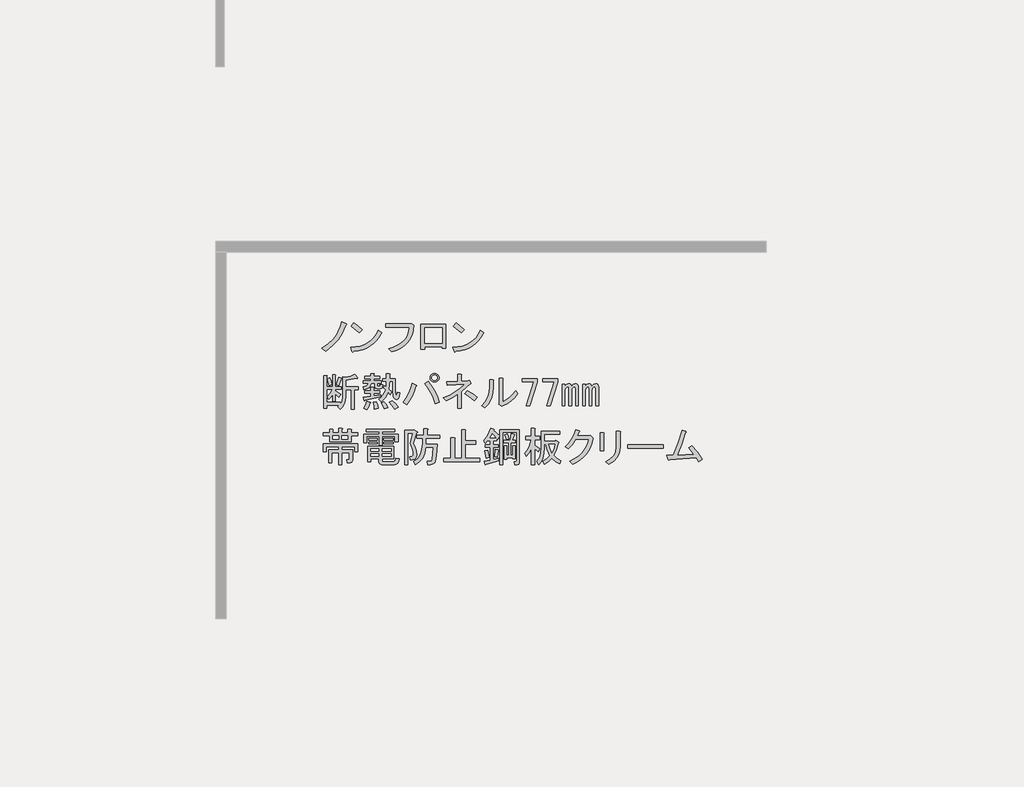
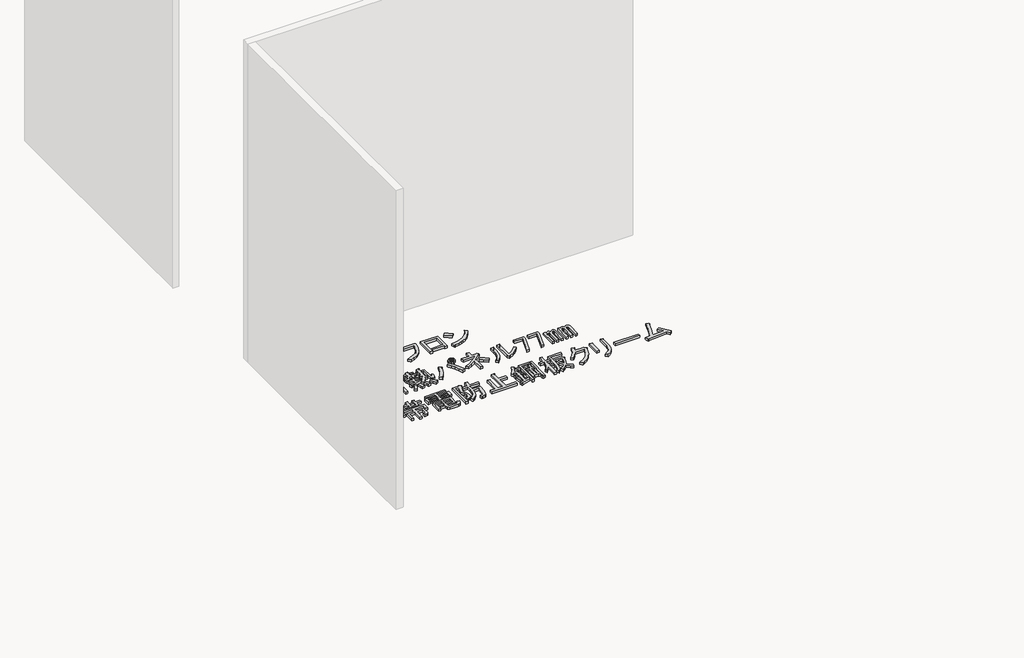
# One storey, part 22 of 117: 1 proxy.
"""IFC4 building model written with IfcOpenShell, lengths in millimetres."""

from ifc_helpers import new_model, si_unit, frame, origin, place, context, project, spatial, polyline, outline, extrude, element, save

model = new_model("IFC4")

# Units and contexts
model_context = context("Model", 3, world=origin())
ifc_project = project(units=[si_unit("LENGTHUNIT", "METRE", prefix="MILLI")], contexts=[model_context])

# Site, building, storey
site = spatial("IfcSite", under=ifc_project)
building = spatial("IfcBuilding", under=site)
storey = spatial("IfcBuildingStorey", under=building, Name="レベル 1", Elevation=500.0)

# Proxy
placement = place(None, origin())
element("IfcBuildingElementProxy", 1, Name="200㎜\u3000MS Pゴシック", ObjectType="200㎜\u3000MS Pゴシック", at=placement, inside=storey, context=model_context, shape_type="SweptSolid", body=[
    extrude(outline(polyline([(-15056.3293015, -607.0496882), (-15081.9047498, -666.8215225), (-15110.353844, -712.7998566), (-15152.0217093, -758.2034615), (-15201.1610538, -795.560858), (-15228.7480543, -773.7211493), (-15181.0455327, -743.2605029), (-15141.3892195, -704.7536481), (-15124.0036619, -680.8305462), (-15108.6296565, -652.7406577), (-15095.2672031, -620.4839827), (-15083.9163019, -584.0605212), (-15052.8809264, -597.8540214), (-15049.7199159, -602.4518548), (-15056.3293015, -607.0496882)])), frame((0.0, 0.0, 500.0), z_axis=(0.0, 0.0, 1.0), x_axis=(1.0, 0.0, 0.0)), (0.0, 0.0, 1.0), 25.0),
    extrude(outline(polyline([(-14956.6022948, -662.2236891), (-15015.2246708, -615.0958967), (-14995.6838788, -590.9572713), (-14968.3842429, -610.7854279), (-14934.7625862, -640.3839804), (-14956.6022948, -662.2236891)])), frame((0.0, 0.0, 500.0), z_axis=(0.0, 0.0, 1.0), x_axis=(1.0, 0.0, 0.0)), (0.0, 0.0, 1.0), 25.0),
    extrude(outline(polyline([(-14794.5286672, -662.2236891), (-14811.052131, -691.965924), (-14830.1618761, -717.9724192), (-14851.8579025, -740.2431748), (-14876.1402102, -758.7781907), (-14903.0087992, -773.577467), (-14932.4636694, -784.6410036), (-14964.504821, -791.9688006), (-14999.1322539, -795.560858), (-15004.8795456, -803.6070664), (-15010.6268374, -797.8597747), (-15019.8225042, -767.9738575), (-14983.9917321, -765.2977748), (-14951.2142088, -758.9937141), (-14921.4899342, -749.0616756), (-14894.8189084, -735.5016591), (-14871.2011313, -718.3136646), (-14850.636603, -697.4976923), (-14833.1253234, -673.053742), (-14818.6672926, -644.9818138), (-14794.5286672, -662.2236891)])), frame((0.0, 0.0, 500.0), z_axis=(0.0, 0.0, 1.0), x_axis=(1.0, 0.0, 0.0)), (0.0, 0.0, 1.0), 25.0),
    extrude(outline(polyline([(-14743.7685864, -777.1695243), (-14709.985287, -767.4889298), (-14680.4765359, -755.1142922), (-14655.242333, -740.0456116), (-14634.2826783, -722.282888), (-14617.597572, -701.8261214), (-14605.1870138, -678.6753118), (-14597.0510039, -652.8304591), (-14593.1895423, -624.2915635), (-14765.6082951, -624.2915635), (-14765.6082951, -599.0034798), (-14590.8906256, -599.0034798), (-14574.7982086, -595.5551047), (-14562.1541668, -607.0496882), (-14565.674383, -643.5449909), (-14573.9361149, -676.5919185), (-14586.9393625, -706.1904711), (-14604.6841258, -732.3406486), (-14627.1704048, -755.042451), (-14654.3981995, -774.2958784), (-14686.3675099, -790.1009308), (-14723.078336, -802.4576081), (-14743.7685864, -777.1695243)])), frame((0.0, 0.0, 500.0), z_axis=(0.0, 0.0, 1.0), x_axis=(1.0, 0.0, 0.0)), (0.0, 0.0, 1.0), 25.0),
    extrude(outline(polyline([(-14329.044013, -776.020066), (-14355.4815551, -776.020066), (-14355.4815551, -763.3760241), (-14483.0714321, -763.3760241), (-14483.0714321, -781.7673577), (-14509.5089742, -781.7673577), (-14509.5089742, -602.4518548), (-14329.044013, -602.4518548), (-14329.044013, -776.020066)]), holes=[polyline([(-14483.0714321, -627.7399386), (-14483.0714321, -738.0879404), (-14355.4815551, -738.0879404), (-14355.4815551, -627.7399386), (-14483.0714321, -627.7399386)])]), frame((0.0, 0.0, 500.0), z_axis=(0.0, 0.0, 1.0), x_axis=(1.0, 0.0, 0.0)), (0.0, 0.0, 1.0), 25.0),
    extrude(outline(polyline([(-14052.9900951, -662.2236891), (-14069.5135589, -691.965924), (-14088.623304, -717.9724192), (-14110.3193304, -740.2431748), (-14134.6016381, -758.7781907), (-14161.4702271, -773.577467), (-14190.9250974, -784.6410036), (-14222.9662489, -791.9688006), (-14257.5936818, -795.560858), (-14263.3409736, -803.6070664), (-14269.0882653, -797.8597747), (-14278.2839321, -767.9738575), (-14242.4531601, -765.2977748), (-14209.6756367, -758.9937141), (-14179.9513622, -749.0616756), (-14153.2803363, -735.5016591), (-14129.6625593, -718.3136646), (-14109.0980309, -697.4976923), (-14091.5867514, -673.053742), (-14077.1287205, -644.9818138), (-14052.9900951, -662.2236891)])), frame((0.0, 0.0, 500.0), z_axis=(0.0, 0.0, 1.0), x_axis=(1.0, 0.0, 0.0)), (0.0, 0.0, 1.0), 25.0),
    extrude(outline(polyline([(-14215.0637228, -662.2236891), (-14273.6860987, -615.0958967), (-14254.1453067, -590.9572713), (-14226.8456709, -610.7854279), (-14193.2240141, -640.3839804), (-14215.0637228, -662.2236891)])), frame((0.0, 0.0, 500.0), z_axis=(0.0, 0.0, 1.0), x_axis=(1.0, 0.0, 0.0)), (0.0, 0.0, 1.0), 25.0),
    extrude(outline(polyline([(-15122.9978859, -1039.2345221), (-15105.7560106, -986.3594379), (-15085.0657603, -992.1067296), (-15083.3415727, -995.2677401), (-15087.364677, -997.8540214), (-15104.6065523, -1046.1312722), (-15122.9978859, -1039.2345221)])), frame((0.0, 0.0, 500.0), z_axis=(0.0, 0.0, 1.0), x_axis=(1.0, 0.0, 0.0)), (0.0, 0.0, 1.0), 25.0),
    extrude(outline(polyline([(-14968.9704667, -990.9572713), (-14970.6946542, -995.5551047), (-14978.1661335, -993.256188), (-15055.1798431, -1005.9002299), (-15055.1798431, -1055.326939), (-14963.2231749, -1055.326939), (-14963.2231749, -1077.1666477), (-14994.2585505, -1077.1666477), (-14994.2585505, -1217.4005666), (-15017.2477175, -1217.4005666), (-15017.2477175, -1077.1666477), (-15055.1798431, -1077.1666477), (-15055.1798431, -1126.5933568), (-15057.7661244, -1154.3958807), (-15065.5249683, -1179.1810764), (-15078.4563747, -1200.948944), (-15096.5603438, -1219.6994833), (-15113.8022191, -1200.1586914), (-15103.4570939, -1190.9630245), (-15193.1148454, -1190.9630245), (-15193.1148454, -1212.8027332), (-15216.1040124, -1212.8027332), (-15216.1040124, -973.715396), (-15194.2643037, -973.715396), (-15189.3791057, -976.0143127), (-15193.1148454, -980.6121461), (-15193.1148454, -1056.4763974), (-15150.5848863, -1056.4763974), (-15150.5848863, -969.1175626), (-15132.1935527, -969.1175626), (-15127.3083547, -971.4164793), (-15131.0440943, -976.0143127), (-15131.0440943, -1056.4763974), (-15087.364677, -1056.4763974), (-15087.364677, -1074.867731), (-15131.0440943, -1074.867731), (-15131.0440943, -1084.0633978), (-15090.813052, -1110.5009399), (-15104.6065523, -1132.3406486), (-15131.0440943, -1105.9031065), (-15131.0440943, -1158.7781907), (-15150.5848863, -1158.7781907), (-15150.5848863, -1110.5009399), (-15163.8036574, -1130.3290965), (-15178.1718868, -1146.1341488), (-15190.8159287, -1127.7428152), (-15168.97622, -1103.6041898), (-15151.7343447, -1074.867731), (-15193.1148454, -1074.867731), (-15193.1148454, -1169.1233159), (-15095.4108854, -1169.1233159), (-15095.4108854, -1182.9168161), (-15082.479479, -1158.7781907), (-15078.1690102, -1125.4438985), (-15078.1690102, -980.6121461), (-15056.3293015, -986.3594379), (-15020.1213634, -978.8879586), (-14989.660717, -965.6691875), (-14968.9704667, -990.9572713)])), frame((0.0, 0.0, 500.0), z_axis=(0.0, 0.0, 1.0), x_axis=(1.0, 0.0, 0.0)), (0.0, 0.0, 1.0), 25.0),
    extrude(outline(polyline([(-15177.0224284, -1047.2807305), (-15189.6664703, -996.7045631), (-15170.1256783, -989.8078129), (-15162.3668344, -1013.9464383), (-15157.4816364, -1040.3839804), (-15177.0224284, -1047.2807305)])), frame((0.0, 0.0, 500.0), z_axis=(0.0, 0.0, 1.0), x_axis=(1.0, 0.0, 0.0)), (0.0, 0.0, 1.0), 25.0),
    extrude(outline(polyline([(-14878.1632569, -1167.9738575), (-14874.7148818, -1172.8590555), (-14880.4621736, -1176.020066), (-14890.2325696, -1201.5955143), (-14901.1524239, -1220.8489417), (-14924.141591, -1209.3543582), (-14911.4975491, -1185.790462), (-14901.1524239, -1158.7781907), (-14878.1632569, -1167.9738575)])), frame((0.0, 0.0, 500.0), z_axis=(0.0, 0.0, 1.0), x_axis=(1.0, 0.0, 0.0)), (0.0, 0.0, 1.0), 25.0),
    extrude(outline(polyline([(-14833.3343812, -1163.3760241), (-14823.2766206, -1190.67566), (-14818.3914226, -1212.8027332), (-14847.1278814, -1218.550025), (-14849.7141627, -1196.9976809), (-14857.4730066, -1166.8243992), (-14833.3343812, -1163.3760241)])), frame((0.0, 0.0, 500.0), z_axis=(0.0, 0.0, 1.0), x_axis=(1.0, 0.0, 0.0)), (0.0, 0.0, 1.0), 25.0),
    extrude(outline(polyline([(-14718.388546, -1157.6287323), (-14693.6751914, -1178.8937119), (-14674.7091286, -1203.6070664), (-14701.1466707, -1218.550025), (-14720.4000981, -1188.9514724), (-14739.0787963, -1169.1233159), (-14718.388546, -1157.6287323)])), frame((0.0, 0.0, 500.0), z_axis=(0.0, 0.0, 1.0), x_axis=(1.0, 0.0, 0.0)), (0.0, 0.0, 1.0), 25.0),
    extrude(outline(polyline([(-14777.0109219, -1216.2511083), (-14785.344495, -1191.5377537), (-14798.8506306, -1170.2727742), (-14778.1603803, -1162.2265657), (-14761.2058696, -1183.7789098), (-14749.4239215, -1207.0554415), (-14777.0109219, -1216.2511083)])), frame((0.0, 0.0, 500.0), z_axis=(0.0, 0.0, 1.0), x_axis=(1.0, 0.0, 0.0)), (0.0, 0.0, 1.0), 25.0),
    extrude(outline(polyline([(-14916.0953825, -1153.0308989), (-14918.1069346, -1157.9160969), (-14921.8426743, -1156.479274), (-14927.589966, -1132.3406486), (-14872.4159651, -1124.2944401), (-14872.4159651, -1101.3052731), (-14916.0953825, -1101.3052731), (-14916.0953825, -1082.9139395), (-14872.4159651, -1082.9139395), (-14872.4159651, -1059.9247724), (-14854.0246315, -1059.9247724), (-14849.1394335, -1062.2236891), (-14852.8751732, -1066.8215225), (-14852.8751732, -1082.9139395), (-14808.0462974, -1082.9139395), (-14808.0462974, -1101.3052731), (-14852.8751732, -1101.3052731), (-14852.8751732, -1120.8460651), (-14802.2990057, -1111.6503983), (-14802.2990057, -1127.7428152), (-14916.0953825, -1153.0308989)])), frame((0.0, 0.0, 500.0), z_axis=(0.0, 0.0, 1.0), x_axis=(1.0, 0.0, 0.0)), (0.0, 0.0, 1.0), 25.0),
    extrude(outline(polyline([(-14845.978423, -1031.1883136), (-14871.2665068, -1031.1883136), (-14875.8643402, -1048.6457123), (-14886.2094654, -1061.9363245), (-14902.3018823, -1071.0601502), (-14924.141591, -1076.0171893), (-14928.7394244, -1056.4763974), (-14903.4513406, -1047.8554597), (-14895.9798614, -1040.5276627), (-14891.9567571, -1031.1883136), (-14927.589966, -1031.1883136), (-14927.589966, -1012.79698), (-14873.5654235, -1012.79698), (-14873.5654235, -995.5551047), (-14917.2448409, -995.5551047), (-14917.2448409, -977.1637711), (-14873.5654235, -977.1637711), (-14873.5654235, -958.7724374), (-14851.7257148, -958.7724374), (-14846.8405168, -961.0713541), (-14850.5762564, -965.6691875), (-14850.5762564, -977.1637711), (-14808.0462974, -977.1637711), (-14808.0462974, -995.5551047), (-14850.5762564, -995.5551047), (-14850.5762564, -1012.79698), (-14797.7011723, -1012.79698), (-14797.7011723, -1031.1883136), (-14826.4376311, -1031.1883136), (-14826.4376311, -1043.8323555), (-14825.0008081, -1049.0049181), (-14820.6903393, -1050.7291056), (-14810.3452141, -1050.7291056), (-14806.6094745, -1047.5680951), (-14806.8968391, -1038.0850637), (-14787.3560471, -1040.3839804), (-14790.229693, -1061.9363245), (-14795.5459378, -1067.3244106), (-14803.448464, -1069.1204392), (-14827.5870894, -1069.1204392), (-14841.3805896, -1064.2352412), (-14845.978423, -1049.5796472), (-14845.978423, -1031.1883136)])), frame((0.0, 0.0, 500.0), z_axis=(0.0, 0.0, 1.0), x_axis=(1.0, 0.0, 0.0)), (0.0, 0.0, 1.0), 25.0),
    extrude(outline(polyline([(-14714.9401709, -1013.9464383), (-14736.7798796, -1013.9464383), (-14741.377713, -1071.4193559), (-14721.836921, -1089.8106896), (-14732.1820462, -1111.6503983), (-14748.2744631, -1095.5579813), (-14767.5278905, -1133.2027424), (-14797.7011723, -1165.6749408), (-14814.9430475, -1144.9846905), (-14799.8564067, -1133.0590601), (-14786.7813179, -1117.9724192), (-14775.7177813, -1099.7247679), (-14766.6657967, -1078.316106), (-14783.907672, -1063.3731475), (-14775.8614636, -1046.1312722), (-14762.0679633, -1056.4763974), (-14759.7690466, -1013.9464383), (-14787.3560471, -1013.9464383), (-14787.3560471, -995.5551047), (-14759.7690466, -995.5551047), (-14759.7690466, -961.0713541), (-14737.9293379, -961.0713541), (-14733.04414, -963.3702708), (-14736.7798796, -967.9681043), (-14736.7798796, -995.5551047), (-14695.3993789, -995.5551047), (-14695.3993789, -1092.1096063), (-14691.9510039, -1116.2482317), (-14688.7181523, -1118.2597838), (-14685.9163475, -1115.0987733), (-14681.6058787, -1093.2590646), (-14662.0650867, -1100.1558147), (-14666.591079, -1126.9525626), (-14674.421764, -1142.9731384), (-14685.5571418, -1148.2175421), (-14699.9972123, -1142.6857738), (-14706.5347567, -1135.3579768), (-14711.2044313, -1123.719711), (-14714.9401709, -1087.5117729), (-14714.9401709, -1013.9464383)])), frame((0.0, 0.0, 500.0), z_axis=(0.0, 0.0, 1.0), x_axis=(1.0, 0.0, 0.0)), (0.0, 0.0, 1.0), 25.0),
    extrude(outline(polyline([(-14456.3120417, -1016.245355), (-14429.6589762, -1052.9561812), (-14407.1726971, -1090.6727833), (-14388.8532047, -1129.3951616), (-14374.7004987, -1169.1233159), (-14405.7358742, -1179.468441), (-14421.1817208, -1136.3637528), (-14438.7828018, -1097.856898), (-14458.5391173, -1063.9478766), (-14480.4506671, -1034.6366887), (-14456.3120417, -1016.245355)])), frame((0.0, 0.0, 500.0), z_axis=(0.0, 0.0, 1.0), x_axis=(1.0, 0.0, 0.0)), (0.0, 0.0, 1.0), 25.0),
    extrude(outline(polyline([(-14543.6708765, -1042.6828971), (-14539.6477722, -1048.1428243), (-14545.9697932, -1053.0280223), (-14557.8954236, -1088.4457078), (-14572.9820644, -1122.282888), (-14591.2297158, -1154.539563), (-14612.6383776, -1185.2157328), (-14639.0759197, -1167.9738575), (-14615.8712292, -1136.5074351), (-14596.8333252, -1103.0294606), (-14581.9622078, -1067.539934), (-14571.2578769, -1030.0388553), (-14543.6708765, -1042.6828971)])), frame((0.0, 0.0, 500.0), z_axis=(0.0, 0.0, 1.0), x_axis=(1.0, 0.0, 0.0)), (0.0, 0.0, 1.0), 25.0),
    extrude(outline(polyline([(-14410.3337076, -1021.9926468), (-14422.9777495, -1019.6937301), (-14433.3228747, -1012.79698), (-14440.2196248, -1002.4518548), (-14442.5185415, -989.8078129), (-14440.2196248, -977.1637711), (-14433.3228747, -966.8186459), (-14422.9777495, -959.9218958), (-14410.3337076, -957.6229791), (-14397.6896657, -959.9218958), (-14387.3445406, -966.8186459), (-14380.4477905, -977.1637711), (-14378.1488738, -989.8078129), (-14380.4477905, -1002.4518548), (-14387.3445406, -1012.79698), (-14397.6896657, -1019.6937301), (-14410.3337076, -1021.9926468)]), holes=[polyline([(-14410.3337076, -1010.4980633), (-14402.0001346, -1009.0612403), (-14395.390749, -1004.7507715), (-14391.0802802, -998.141386), (-14389.6434573, -989.8078129), (-14391.0802802, -981.4742399), (-14395.390749, -974.8648544), (-14402.0001346, -970.5543855), (-14410.3337076, -969.1175626), (-14418.6672807, -970.5543855), (-14425.2766662, -974.8648544), (-14429.587135, -981.4742399), (-14431.023958, -989.8078129), (-14429.587135, -998.141386), (-14425.2766662, -1004.7507715), (-14418.6672807, -1009.0612403), (-14410.3337076, -1010.4980633)])]), frame((0.0, 0.0, 500.0), z_axis=(0.0, 0.0, 1.0), x_axis=(1.0, 0.0, 0.0)), (0.0, 0.0, 1.0), 25.0),
    extrude(outline(polyline([(-14120.6702029, -1155.3298156), (-14157.7402348, -1126.0186277), (-14190.7871624, -1104.7536481), (-14173.5452871, -1082.9139395), (-14134.7510677, -1106.1904711), (-14101.1294109, -1132.3406486), (-14120.6702029, -1155.3298156)])), frame((0.0, 0.0, 500.0), z_axis=(0.0, 0.0, 1.0), x_axis=(1.0, 0.0, 0.0)), (0.0, 0.0, 1.0), 25.0),
    extrude(outline(polyline([(-14166.648537, -1011.6475216), (-14159.7517869, -1009.3486049), (-14147.107745, -1026.5904802), (-14145.9582866, -1032.6251366), (-14151.7055784, -1034.6366887), (-14214.9257878, -1090.9601479), (-14214.9257878, -1211.6532749), (-14241.3633299, -1211.6532749), (-14241.3633299, -1109.3514816), (-14281.5943722, -1133.4901069), (-14326.4232479, -1155.3298156), (-14345.9640399, -1134.6395653), (-14300.4167527, -1115.1706145), (-14259.1799343, -1092.3969709), (-14222.2535848, -1066.3186345), (-14189.637704, -1036.9356054), (-14319.5264978, -1042.6828971), (-14322.9748729, -1017.3948134), (-14241.3633299, -1015.0958967), (-14241.3633299, -963.3702708), (-14218.3741628, -963.3702708), (-14212.3395065, -966.8186459), (-14214.9257878, -972.5659377), (-14214.9257878, -1013.9464383), (-14166.648537, -1011.6475216)])), frame((0.0, 0.0, 500.0), z_axis=(0.0, 0.0, 1.0), x_axis=(1.0, 0.0, 0.0)), (0.0, 0.0, 1.0), 25.0),
    extrude(outline(polyline([(-14067.703162, -1193.2619413), (-14042.5587606, -1164.0225944), (-14024.5984738, -1131.4785548), (-14013.8223018, -1095.6298225), (-14010.2302444, -1056.4763974), (-14010.2302444, -1004.7507715), (-13986.091619, -1004.7507715), (-13980.3443273, -1008.1991466), (-13983.7927023, -1013.9464383), (-13983.7927023, -1055.326939), (-13987.6002831, -1101.0897496), (-13999.0230255, -1141.82368), (-14018.0609295, -1177.5287301), (-14044.713995, -1208.2048998), (-14067.703162, -1193.2619413)])), frame((0.0, 0.0, 500.0), z_axis=(0.0, 0.0, 1.0), x_axis=(1.0, 0.0, 0.0)), (0.0, 0.0, 1.0), 25.0),
    extrude(outline(polyline([(-13913.6757429, -1162.2265657), (-13888.8905471, -1150.0135708), (-13865.1111275, -1132.9153778), (-13842.3374839, -1110.9319868), (-13820.5696163, -1084.0633978), (-13804.4771994, -1105.9031065), (-13827.753731, -1133.7056304), (-13853.9039086, -1157.3413678), (-13882.9277319, -1176.8103186), (-13914.8252012, -1192.1124829), (-13924.020868, -1196.7103163), (-13942.4122017, -1182.9168161), (-13940.113285, -1177.1695243), (-13940.113285, -992.1067296), (-13915.9746596, -992.1067296), (-13910.2273678, -995.5551047), (-13913.6757429, -1001.3023965), (-13913.6757429, -1162.2265657)])), frame((0.0, 0.0, 500.0), z_axis=(0.0, 0.0, 1.0), x_axis=(1.0, 0.0, 0.0)), (0.0, 0.0, 1.0), 25.0),
    extrude(outline(polyline([(-13772.2923656, -995.5551047), (-13663.0938221, -995.5551047), (-13663.0938221, -1020.8431884), (-13718.267823, -1192.1124829), (-13743.5559068, -1192.1124829), (-13688.3819059, -1017.3948134), (-13772.2923656, -1017.3948134), (-13772.2923656, -995.5551047)])), frame((0.0, 0.0, 500.0), z_axis=(0.0, 0.0, 1.0), x_axis=(1.0, 0.0, 0.0)), (0.0, 0.0, 1.0), 25.0),
    extrude(outline(polyline([(-13625.1616965, -995.5551047), (-13515.9631531, -995.5551047), (-13515.9631531, -1020.8431884), (-13571.137154, -1192.1124829), (-13596.4252377, -1192.1124829), (-13541.2512368, -1017.3948134), (-13625.1616965, -1017.3948134), (-13625.1616965, -995.5551047)])), frame((0.0, 0.0, 500.0), z_axis=(0.0, 0.0, 1.0), x_axis=(1.0, 0.0, 0.0)), (0.0, 0.0, 1.0), 25.0),
    extrude(outline(polyline([(-13241.2426069, -1032.337772), (-13232.9090339, -1033.7745949), (-13226.2996483, -1038.0850637), (-13221.1270858, -1046.7060014), (-13219.4028982, -1058.7753141), (-13219.4028982, -1193.2619413), (-13238.9436902, -1193.2619413), (-13238.9436902, -1069.1204392), (-13241.5299715, -1059.6374078), (-13249.2888154, -1056.4763974), (-13259.6339406, -1061.0742308), (-13265.6685969, -1069.6951684), (-13267.680149, -1079.4655644), (-13267.680149, -1193.2619413), (-13287.220941, -1193.2619413), (-13287.220941, -1069.1204392), (-13289.8072223, -1059.6374078), (-13297.5660662, -1056.4763974), (-13307.9111913, -1061.0742308), (-13313.9458477, -1069.6951684), (-13315.9573998, -1079.4655644), (-13315.9573998, -1193.2619413), (-13335.4981918, -1193.2619413), (-13335.4981918, -1035.786147), (-13315.9573998, -1035.786147), (-13315.9573998, -1053.0280223), (-13303.8880871, -1037.5103346), (-13290.6693161, -1032.337772), (-13281.4736492, -1033.7745949), (-13274.5768991, -1038.0850637), (-13267.680149, -1051.878564), (-13254.7487426, -1037.22297), (-13241.2426069, -1032.337772)])), frame((0.0, 0.0, 500.0), z_axis=(0.0, 0.0, 1.0), x_axis=(1.0, 0.0, 0.0)), (0.0, 0.0, 1.0), 25.0),
    extrude(outline(polyline([(-13463.0880689, -1193.2619413), (-13482.6288608, -1193.2619413), (-13482.6288608, -1035.786147), (-13463.0880689, -1035.786147), (-13463.0880689, -1053.0280223), (-13451.0187562, -1037.5103346), (-13437.7999851, -1032.337772), (-13428.6043183, -1033.7745949), (-13421.7075682, -1038.0850637), (-13414.8108181, -1051.878564), (-13401.8794116, -1037.22297), (-13388.373276, -1032.337772), (-13380.0397029, -1033.7745949), (-13373.4303174, -1038.0850637), (-13368.2577548, -1046.7060014), (-13366.5335673, -1058.7753141), (-13366.5335673, -1193.2619413), (-13386.0743593, -1193.2619413), (-13386.0743593, -1069.1204392), (-13388.6606406, -1059.6374078), (-13396.4194844, -1056.4763974), (-13406.7646096, -1061.0742308), (-13412.799266, -1069.6951684), (-13414.8108181, -1079.4655644), (-13414.8108181, -1193.2619413), (-13434.3516101, -1193.2619413), (-13434.3516101, -1069.1204392), (-13436.9378914, -1059.6374078), (-13444.6967352, -1056.4763974), (-13455.0418604, -1061.0742308), (-13461.0765167, -1069.6951684), (-13463.0880689, -1079.4655644), (-13463.0880689, -1193.2619413)])), frame((0.0, 0.0, 500.0), z_axis=(0.0, 0.0, 1.0), x_axis=(1.0, 0.0, 0.0)), (0.0, 0.0, 1.0), 25.0),
    extrude(outline(polyline([(-14967.8210084, -1526.5933568), (-14990.8101754, -1526.5933568), (-14990.8101754, -1489.8106896), (-15082.7668436, -1489.8106896), (-15082.7668436, -1513.949315), (-15005.753134, -1513.949315), (-15005.753134, -1588.6641078), (-15010.3509674, -1602.4576081), (-15024.1444676, -1607.0554415), (-15045.9841763, -1607.0554415), (-15049.4325514, -1585.2157328), (-15033.3401344, -1585.2157328), (-15029.8917594, -1584.0662744), (-15028.742301, -1580.6178994), (-15028.742301, -1535.7890237), (-15082.7668436, -1535.7890237), (-15082.7668436, -1623.1478584), (-15105.7560106, -1623.1478584), (-15105.7560106, -1535.7890237), (-15157.4816364, -1535.7890237), (-15157.4816364, -1608.2048998), (-15180.4708035, -1608.2048998), (-15180.4708035, -1513.949315), (-15105.7560106, -1513.949315), (-15105.7560106, -1489.8106896), (-15197.7126788, -1489.8106896), (-15197.7126788, -1526.5933568), (-15220.7018458, -1526.5933568), (-15220.7018458, -1467.9709809), (-14967.8210084, -1467.9709809), (-14967.8210084, -1526.5933568)])), frame((0.0, 0.0, 500.0), z_axis=(0.0, 0.0, 1.0), x_axis=(1.0, 0.0, 0.0)), (0.0, 0.0, 1.0), 25.0),
    extrude(outline(polyline([(-15172.424595, -1453.0280223), (-15172.424595, -1432.337772), (-15172.424595, -1411.6475216), (-15218.4029291, -1411.6475216), (-15218.4029291, -1389.8078129), (-15172.424595, -1389.8078129), (-15172.424595, -1364.5197292), (-15150.5848863, -1364.5197292), (-15145.6996883, -1366.8186459), (-15149.435428, -1371.4164793), (-15149.435428, -1389.8078129), (-15105.7560106, -1389.8078129), (-15105.7560106, -1357.6229791), (-15083.9163019, -1357.6229791), (-15079.0311039, -1359.9218958), (-15082.7668436, -1364.5197292), (-15082.7668436, -1389.8078129), (-15040.2368845, -1389.8078129), (-15040.2368845, -1364.5197292), (-15018.3971758, -1364.5197292), (-15013.5119779, -1366.8186459), (-15017.2477175, -1371.4164793), (-15017.2477175, -1389.8078129), (-14970.1199251, -1389.8078129), (-14970.1199251, -1411.6475216), (-15017.2477175, -1411.6475216), (-15017.2477175, -1453.0280223), (-15172.424595, -1453.0280223)]), holes=[polyline([(-15105.7560106, -1411.6475216), (-15149.435428, -1411.6475216), (-15149.435428, -1434.6366887), (-15105.7560106, -1434.6366887), (-15105.7560106, -1411.6475216)]), polyline([(-15040.2368845, -1411.6475216), (-15082.7668436, -1411.6475216), (-15082.7668436, -1434.6366887), (-15040.2368845, -1434.6366887), (-15040.2368845, -1411.6475216)])]), frame((0.0, 0.0, 500.0), z_axis=(0.0, 0.0, 1.0), x_axis=(1.0, 0.0, 0.0)), (0.0, 0.0, 1.0), 25.0),
    extrude(outline(polyline([(-14666.6629201, -1578.3189827), (-14669.4647249, -1596.9258397), (-14676.7206807, -1610.2164519), (-14688.4307877, -1618.1908193), (-14704.5950457, -1620.8489417), (-14794.2527972, -1620.8489417), (-14809.770485, -1615.9637437), (-14813.6499069, -1609.8572462), (-14814.9430475, -1601.3081497), (-14814.9430475, -1579.468441), (-14874.7148818, -1579.468441), (-14874.7148818, -1599.009233), (-14894.2556738, -1599.009233), (-14894.2556738, -1486.3623145), (-14706.8939624, -1486.3623145), (-14706.8939624, -1579.468441), (-14791.9538805, -1579.468441), (-14791.9538805, -1589.8135662), (-14789.9423284, -1596.7103163), (-14783.907672, -1599.009233), (-14708.0434208, -1599.009233), (-14701.4340353, -1597.4287278), (-14696.5488373, -1592.6872121), (-14691.9510039, -1573.7211493), (-14666.6629201, -1578.3189827)]), holes=[polyline([(-14874.7148818, -1561.0771074), (-14814.9430475, -1561.0771074), (-14814.9430475, -1541.5363154), (-14874.7148818, -1541.5363154), (-14874.7148818, -1561.0771074)]), polyline([(-14874.7148818, -1523.1449818), (-14814.9430475, -1523.1449818), (-14814.9430475, -1504.7536481), (-14874.7148818, -1504.7536481), (-14874.7148818, -1523.1449818)]), polyline([(-14791.9538805, -1561.0771074), (-14726.4347544, -1561.0771074), (-14726.4347544, -1541.5363154), (-14791.9538805, -1541.5363154), (-14791.9538805, -1561.0771074)]), polyline([(-14791.9538805, -1523.1449818), (-14726.4347544, -1523.1449818), (-14726.4347544, -1504.7536481), (-14791.9538805, -1504.7536481), (-14791.9538805, -1523.1449818)])]), frame((0.0, 0.0, 500.0), z_axis=(0.0, 0.0, 1.0), x_axis=(1.0, 0.0, 0.0)), (0.0, 0.0, 1.0), 25.0),
    extrude(outline(polyline([(-14888.5083821, -1442.6828971), (-14888.5083821, -1428.8893969), (-14825.2881727, -1428.8893969), (-14825.2881727, -1442.6828971), (-14888.5083821, -1442.6828971)])), frame((0.0, 0.0, 500.0), z_axis=(0.0, 0.0, 1.0), x_axis=(1.0, 0.0, 0.0)), (0.0, 0.0, 1.0), 25.0),
    extrude(outline(polyline([(-14825.2881727, -1470.2698976), (-14888.5083821, -1470.2698976), (-14888.5083821, -1456.4763974), (-14825.2881727, -1456.4763974), (-14825.2881727, -1470.2698976)])), frame((0.0, 0.0, 500.0), z_axis=(0.0, 0.0, 1.0), x_axis=(1.0, 0.0, 0.0)), (0.0, 0.0, 1.0), 25.0),
    extrude(outline(polyline([(-14778.1603803, -1470.2698976), (-14778.1603803, -1456.4763974), (-14711.4917959, -1456.4763974), (-14711.4917959, -1470.2698976), (-14778.1603803, -1470.2698976)])), frame((0.0, 0.0, 500.0), z_axis=(0.0, 0.0, 1.0), x_axis=(1.0, 0.0, 0.0)), (0.0, 0.0, 1.0), 25.0),
    extrude(outline(polyline([(-14778.1603803, -1442.6828971), (-14778.1603803, -1428.8893969), (-14711.4917959, -1428.8893969), (-14711.4917959, -1442.6828971), (-14778.1603803, -1442.6828971)])), frame((0.0, 0.0, 500.0), z_axis=(0.0, 0.0, 1.0), x_axis=(1.0, 0.0, 0.0)), (0.0, 0.0, 1.0), 25.0),
    extrude(outline(polyline([(-14698.847754, -1381.7616045), (-14790.8044221, -1381.7616045), (-14790.8044221, -1400.1529381), (-14675.8585869, -1400.1529381), (-14675.8585869, -1455.326939), (-14698.847754, -1455.326939), (-14698.847754, -1413.9464383), (-14790.8044221, -1413.9464383), (-14790.8044221, -1479.4655644), (-14813.7935892, -1479.4655644), (-14813.7935892, -1413.9464383), (-14902.3018823, -1413.9464383), (-14902.3018823, -1459.9247724), (-14925.2910493, -1459.9247724), (-14925.2910493, -1400.1529381), (-14813.7935892, -1400.1529381), (-14813.7935892, -1381.7616045), (-14905.7502573, -1381.7616045), (-14905.7502573, -1363.3702708), (-14698.847754, -1363.3702708), (-14698.847754, -1381.7616045)])), frame((0.0, 0.0, 500.0), z_axis=(0.0, 0.0, 1.0), x_axis=(1.0, 0.0, 0.0)), (0.0, 0.0, 1.0), 25.0),
    extrude(outline(polyline([(-14542.5214181, -1520.8460651), (-14540.5817071, -1548.5049067), (-14545.1076994, -1568.2612221), (-14556.0993949, -1580.1150114), (-14573.5567936, -1584.0662744), (-14587.3502938, -1584.0662744), (-14591.9481272, -1562.2265657), (-14580.4535437, -1562.2265657), (-14572.1199707, -1560.0713313), (-14566.6600435, -1553.6056281), (-14564.0737622, -1542.8294561), (-14564.3611268, -1527.7428152), (-14571.2578769, -1500.7305439), (-14587.3502938, -1465.6720642), (-14568.9589602, -1394.4056463), (-14603.4427108, -1394.4056463), (-14603.4427108, -1623.1478584), (-14626.4318778, -1623.1478584), (-14626.4318778, -1372.5659377), (-14562.0622101, -1372.5659377), (-14559.7632934, -1367.9681043), (-14535.624668, -1380.6121461), (-14534.187845, -1384.3478858), (-14539.073043, -1386.3594379), (-14565.5105851, -1464.5226058), (-14549.9928974, -1496.9948043), (-14542.5214181, -1520.8460651)])), frame((0.0, 0.0, 500.0), z_axis=(0.0, 0.0, 1.0), x_axis=(1.0, 0.0, 0.0)), (0.0, 0.0, 1.0), 25.0),
    extrude(outline(polyline([(-14475.8528337, -1495.5579813), (-14483.0369484, -1538.7345107), (-14497.6925424, -1574.0085139), (-14519.8196156, -1601.3799909), (-14549.4181682, -1620.8489417), (-14560.9127517, -1597.8597747), (-14533.2539101, -1578.0316181), (-14513.4975947, -1549.5825239), (-14501.6438055, -1512.512492), (-14497.6925424, -1466.8215225), (-14497.6925424, -1428.8893969), (-14541.3719597, -1428.8893969), (-14541.3719597, -1407.0496882), (-14488.4968756, -1407.0496882), (-14488.4968756, -1358.7724374), (-14463.2087918, -1358.7724374), (-14457.1741355, -1362.2208125), (-14462.0593335, -1367.9681043), (-14462.0593335, -1407.0496882), (-14373.5510404, -1407.0496882), (-14373.5510404, -1428.8893969), (-14474.7033753, -1428.8893969), (-14474.7033753, -1473.7182726), (-14391.942374, -1473.7182726), (-14397.6896657, -1555.9045448), (-14405.7358742, -1600.1586914), (-14410.6210722, -1608.7077879), (-14418.3799161, -1614.8142854), (-14442.5185415, -1619.6994833), (-14460.9098751, -1619.6994833), (-14464.3582502, -1597.8597747), (-14447.1163749, -1597.8597747), (-14434.7596976, -1594.6987642), (-14427.5755829, -1585.2157328), (-14418.3799161, -1495.5579813), (-14475.8528337, -1495.5579813)])), frame((0.0, 0.0, 500.0), z_axis=(0.0, 0.0, 1.0), x_axis=(1.0, 0.0, 0.0)), (0.0, 0.0, 1.0), 25.0),
    extrude(outline(polyline([(-14188.4882457, -1366.8186459), (-14182.4535893, -1370.267021), (-14187.3387873, -1376.0143127), (-14187.3387873, -1446.1312722), (-14111.4745361, -1446.1312722), (-14111.4745361, -1471.4193559), (-14187.3387873, -1471.4193559), (-14187.3387873, -1574.8706076), (-14081.5886189, -1574.8706076), (-14081.5886189, -1600.1586914), (-14344.8145815, -1600.1586914), (-14344.8145815, -1574.8706076), (-14291.9394974, -1574.8706076), (-14291.9394974, -1424.2915635), (-14266.6514136, -1424.2915635), (-14260.6167573, -1427.7399386), (-14265.5019553, -1433.4872303), (-14265.5019553, -1574.8706076), (-14213.7763294, -1574.8706076), (-14213.7763294, -1366.8186459), (-14188.4882457, -1366.8186459)])), frame((0.0, 0.0, 500.0), z_axis=(0.0, 0.0, 1.0), x_axis=(1.0, 0.0, 0.0)), (0.0, 0.0, 1.0), 25.0),
    extrude(outline(polyline([(-13950.5503668, -1434.6366887), (-13991.9308675, -1390.9572713), (-14013.7705762, -1430.0388553), (-13958.5965753, -1430.0388553), (-13958.5965753, -1448.4301889), (-13985.0341174, -1448.4301889), (-13985.0341174, -1477.1666477), (-13947.1019917, -1477.1666477), (-13947.1019917, -1495.5579813), (-13985.0341174, -1495.5579813), (-13985.0341174, -1582.9168161), (-13945.9525334, -1572.5716909), (-13943.6536167, -1592.1124829), (-14035.6102848, -1617.4005666), (-14037.9092016, -1623.1478584), (-14042.507035, -1619.6994833), (-14049.4037851, -1596.7103163), (-14004.5749093, -1587.5146495), (-14004.5749093, -1495.5579813), (-14042.507035, -1495.5579813), (-14042.507035, -1477.1666477), (-14004.5749093, -1477.1666477), (-14004.5749093, -1448.4301889), (-14026.414618, -1448.4301889), (-14041.3575766, -1466.8215225), (-14054.0016185, -1446.1312722), (-14025.8398889, -1408.4865112), (-14001.1265343, -1357.6229791), (-13979.2868256, -1363.3702708), (-13975.8384505, -1367.1060105), (-13981.5857423, -1369.1175626), (-13982.7352007, -1372.5659377), (-13937.9063249, -1410.4980633), (-13950.5503668, -1434.6366887)])), frame((0.0, 0.0, 500.0), z_axis=(0.0, 0.0, 1.0), x_axis=(1.0, 0.0, 0.0)), (0.0, 0.0, 1.0), 25.0),
    extrude(outline(polyline([(-13882.732324, -1397.8540214), (-13875.5482093, -1413.0843446), (-13870.0882822, -1433.4872303), (-13887.3301574, -1439.2345221), (-13898.824741, -1402.4518548), (-13882.732324, -1397.8540214)])), frame((0.0, 0.0, 500.0), z_axis=(0.0, 0.0, 1.0), x_axis=(1.0, 0.0, 0.0)), (0.0, 0.0, 1.0), 25.0),
    extrude(outline(polyline([(-13829.8572398, -1399.0034798), (-13827.2709585, -1402.4518548), (-13833.3056149, -1405.9002299), (-13845.9496568, -1443.8323555), (-13825.2594064, -1443.8323555), (-13825.2594064, -1462.2236891), (-13856.2947819, -1462.2236891), (-13856.2947819, -1550.7319822), (-13841.3518234, -1550.7319822), (-13841.3518234, -1482.9139395), (-13825.2594064, -1482.9139395), (-13825.2594064, -1577.1695243), (-13841.3518234, -1577.1695243), (-13841.3518234, -1569.1233159), (-13887.3301574, -1569.1233159), (-13887.3301574, -1581.7673577), (-13903.4225744, -1581.7673577), (-13903.4225744, -1485.2128562), (-13887.3301574, -1485.2128562), (-13887.3301574, -1550.7319822), (-13872.3871989, -1550.7319822), (-13872.3871989, -1462.2236891), (-13908.0204078, -1462.2236891), (-13908.0204078, -1443.8323555), (-13862.0420737, -1443.8323555), (-13851.6969485, -1394.4056463), (-13829.8572398, -1399.0034798)])), frame((0.0, 0.0, 500.0), z_axis=(0.0, 0.0, 1.0), x_axis=(1.0, 0.0, 0.0)), (0.0, 0.0, 1.0), 25.0),
    extrude(outline(polyline([(-13935.6074082, -1365.6691875), (-13795.3734893, -1365.6691875), (-13795.3734893, -1605.9059831), (-13799.1092289, -1617.1132021), (-13810.3164478, -1620.8489417), (-13826.4088648, -1620.8489417), (-13831.0066982, -1599.009233), (-13819.5121147, -1599.009233), (-13816.0637396, -1597.8597747), (-13814.9142813, -1594.4113996), (-13814.9142813, -1384.0605212), (-13916.0666162, -1384.0605212), (-13916.0666162, -1623.1478584), (-13935.6074082, -1623.1478584), (-13935.6074082, -1365.6691875)])), frame((0.0, 0.0, 500.0), z_axis=(0.0, 0.0, 1.0), x_axis=(1.0, 0.0, 0.0)), (0.0, 0.0, 1.0), 25.0),
    extrude(outline(polyline([(-13947.1019917, -1513.949315), (-13944.5157105, -1517.1103254), (-13948.2514501, -1519.6966067), (-13956.2976586, -1566.8243992), (-13974.6889922, -1564.5254825), (-13968.9417004, -1510.5009399), (-13947.1019917, -1513.949315)])), frame((0.0, 0.0, 500.0), z_axis=(0.0, 0.0, 1.0), x_axis=(1.0, 0.0, 0.0)), (0.0, 0.0, 1.0), 25.0),
    extrude(outline(polyline([(-14024.1157013, -1515.0987733), (-14012.6211178, -1566.8243992), (-14033.3113681, -1572.5716909), (-14044.8059517, -1520.8460651), (-14024.1157013, -1515.0987733)])), frame((0.0, 0.0, 500.0), z_axis=(0.0, 0.0, 1.0), x_axis=(1.0, 0.0, 0.0)), (0.0, 0.0, 1.0), 25.0),
    extrude(outline(polyline([(-13706.8651962, -1623.1478584), (-13706.8651962, -1503.6041898), (-13724.6818006, -1537.8005758), (-13743.6478634, -1559.927649), (-13755.142447, -1539.2373987), (-13737.9005717, -1516.5355963), (-13724.1070714, -1492.1096063), (-13713.7619463, -1465.9594288), (-13706.8651962, -1438.0850637), (-13748.2456968, -1438.0850637), (-13748.2456968, -1416.245355), (-13706.8651962, -1416.245355), (-13706.8651962, -1356.4735207), (-13685.0254875, -1356.4735207), (-13680.1402895, -1358.7724374), (-13683.8760291, -1363.3702708), (-13683.8760291, -1416.245355), (-13645.9439035, -1416.245355), (-13645.9439035, -1438.0850637), (-13683.8760291, -1438.0850637), (-13683.8760291, -1478.316106), (-13645.9439035, -1504.7536481), (-13656.2890287, -1527.7428152), (-13683.8760291, -1504.7536481), (-13683.8760291, -1623.1478584), (-13706.8651962, -1623.1478584)])), frame((0.0, 0.0, 500.0), z_axis=(0.0, 0.0, 1.0), x_axis=(1.0, 0.0, 0.0)), (0.0, 0.0, 1.0), 25.0),
    extrude(outline(polyline([(-13624.1041948, -1594.4113996), (-13595.367736, -1577.1695243), (-13573.5280273, -1555.3298156), (-13591.3446318, -1513.3745858), (-13601.1150278, -1472.5688143), (-13613.7590697, -1472.5688143), (-13613.7590697, -1496.7074397), (-13616.2016686, -1538.4471461), (-13623.5294656, -1572.8590555), (-13635.7424606, -1599.9431679), (-13652.8406536, -1619.6994833), (-13666.6341538, -1596.7103163), (-13653.5590651, -1579.3247587), (-13644.219716, -1557.0540032), (-13638.6161065, -1529.8980496), (-13636.7482367, -1497.856898), (-13636.7482367, -1377.1637711), (-13499.9626928, -1377.1637711), (-13499.9626928, -1399.0034798), (-13613.7590697, -1399.0034798), (-13613.7590697, -1450.7291056), (-13534.4464434, -1450.7291056), (-13528.6991516, -1444.9818138), (-13509.1583596, -1458.7753141), (-13507.7215367, -1462.5110537), (-13512.6067347, -1466.8215225), (-13524.963412, -1513.3745858), (-13543.6421102, -1554.1803573), (-13524.6760474, -1572.5716909), (-13493.0659427, -1590.9630245), (-13502.2616095, -1615.1016499), (-13530.1359745, -1599.009233), (-13558.5850688, -1573.7211493), (-13583.0110587, -1598.1471392), (-13614.908528, -1618.550025), (-13624.1041948, -1594.4113996)]), holes=[polyline([(-13579.2753191, -1472.5688143), (-13571.2291106, -1505.6157419), (-13558.5850688, -1533.4901069), (-13545.9410269, -1507.3399294), (-13537.8948184, -1472.5688143), (-13579.2753191, -1472.5688143)])]), frame((0.0, 0.0, 500.0), z_axis=(0.0, 0.0, 1.0), x_axis=(1.0, 0.0, 0.0)), (0.0, 0.0, 1.0), 25.0),
    extrude(outline(polyline([(-13263.1742723, -1438.0850637), (-13270.1967444, -1468.294266), (-13280.3443064, -1496.2763928), (-13293.6169583, -1522.031444), (-13310.0147001, -1545.5594196), (-13329.5375318, -1566.8603197), (-13352.1854534, -1585.9341443), (-13377.9584649, -1602.7808932), (-13406.8565663, -1617.4005666), (-13427.5468166, -1595.560858), (-13376.8269668, -1568.4049044), (-13355.669749, -1551.7018377), (-13337.314336, -1532.9153778), (-13321.7607277, -1512.0455246), (-13309.0089241, -1489.0922781), (-13299.0589252, -1464.0556384), (-13291.9107311, -1436.9356054), (-13383.8673992, -1436.9356054), (-13410.8796705, -1476.3045539), (-13439.0414001, -1507.0525648), (-13462.0305672, -1492.1096063), (-13434.8027725, -1463.9478766), (-13412.8912226, -1433.4872303), (-13396.2959177, -1400.7276673), (-13385.0168576, -1365.6691875), (-13358.5793155, -1374.8648544), (-13355.7056696, -1378.3132294), (-13360.8782322, -1381.7616045), (-13373.5222741, -1411.6475216), (-13290.7612727, -1411.6475216), (-13280.4161476, -1405.9002299), (-13259.7258972, -1426.5904802), (-13256.5648868, -1433.4872303), (-13263.1742723, -1438.0850637)])), frame((0.0, 0.0, 500.0), z_axis=(0.0, 0.0, 1.0), x_axis=(1.0, 0.0, 0.0)), (0.0, 0.0, 1.0), 25.0),
    extrude(outline(polyline([(-13181.792621, -1519.6966067), (-13208.230163, -1519.6966067), (-13208.230163, -1389.8078129), (-13182.9420793, -1389.8078129), (-13176.907423, -1392.6814588), (-13181.792621, -1399.0034798), (-13181.792621, -1519.6966067)])), frame((0.0, 0.0, 500.0), z_axis=(0.0, 0.0, 1.0), x_axis=(1.0, 0.0, 0.0)), (0.0, 0.0, 1.0), 25.0),
    extrude(outline(polyline([(-13063.3984107, -1494.408523), (-13068.427291, -1534.495883), (-13083.5139319, -1568.5485867), (-13108.6583333, -1596.566634), (-13143.8604953, -1618.550025), (-13166.8496624, -1599.009233), (-13133.5872113, -1579.468441), (-13109.6641094, -1555.3298156), (-13095.0803565, -1526.5933568), (-13089.8359528, -1493.2590646), (-13089.8359528, -1378.3132294), (-13065.6973274, -1378.3132294), (-13059.3753065, -1381.7616045), (-13063.3984107, -1387.5088962), (-13063.3984107, -1494.408523)])), frame((0.0, 0.0, 500.0), z_axis=(0.0, 0.0, 1.0), x_axis=(1.0, 0.0, 0.0)), (0.0, 0.0, 1.0), 25.0),
    extrude(outline(polyline([(-13007.0749514, -1501.3052731), (-13007.0749514, -1476.0171893), (-12750.7457389, -1476.0171893), (-12750.7457389, -1501.3052731), (-13007.0749514, -1501.3052731)])), frame((0.0, 0.0, 500.0), z_axis=(0.0, 0.0, 1.0), x_axis=(1.0, 0.0, 0.0)), (0.0, 0.0, 1.0), 25.0),
    extrude(outline(polyline([(-12723.4346085, -1554.1803573), (-12675.1573577, -1553.0308989), (-12638.662055, -1462.5110537), (-12611.9371483, -1370.267021), (-12585.4996062, -1379.4626878), (-12580.9017728, -1385.4973441), (-12587.798523, -1389.8078129), (-12613.3739713, -1470.8446268), (-12646.4208989, -1550.7319822), (-12526.8772303, -1544.9846905), (-12564.8093559, -1497.856898), (-12541.8201889, -1481.7644811), (-12503.6006987, -1528.0301798), (-12467.105396, -1581.7673577), (-12492.3934797, -1599.009233), (-12510.7848134, -1569.1233159), (-12703.8938165, -1584.0662744), (-12709.9284729, -1589.8135662), (-12714.2389417, -1584.0662744), (-12723.4346085, -1554.1803573)])), frame((0.0, 0.0, 500.0), z_axis=(0.0, 0.0, 1.0), x_axis=(1.0, 0.0, 0.0)), (0.0, 0.0, 1.0), 25.0),
])

save(model, "model.ifc")
